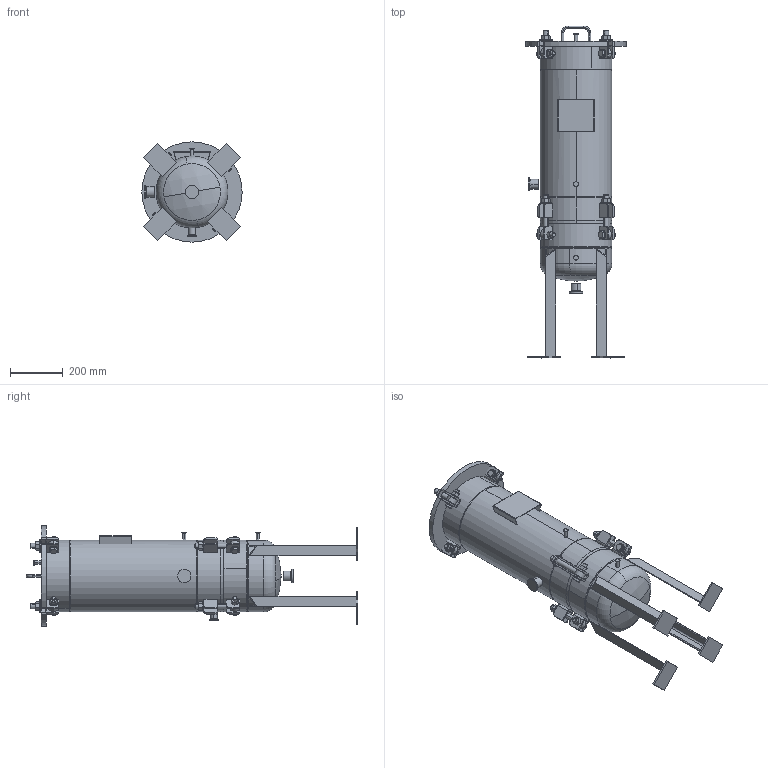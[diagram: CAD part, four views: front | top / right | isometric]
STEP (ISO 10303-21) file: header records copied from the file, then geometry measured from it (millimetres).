
FILE_DESCRIPTION (( 'STEP AP203' ), '1' );
FILE_NAME ('001001-00322.step', '2025-12-09T19:06:29', ( '' ), ( '' ), 'SwSTEP 2.0', 'SolidWorks 2023', '' );
FILE_SCHEMA (( 'CONFIG_CONTROL_DESIGN' ));
Length unit declared in the file: inch
Products named in the file (1): 001001-00322
Bounding box: 381 x 1261.99 x 381 mm (x, y, z)
Volume: 55133674.2 mm3; surface area: 2442111.9 mm2
Topology: 79 solids, 79 shells, 1176 faces, 2528 edges, 1537 vertices
Faces by surface type: plane 559, cylinder 315, cone 292, bspline 6, torus 2, sphere 2
Entity records: 34696 total; most frequent: CARTESIAN_POINT 9679, DIRECTION 5244, ORIENTED_EDGE 5056, EDGE_CURVE 2528, AXIS2_PLACEMENT_3D 2091, VERTEX_POINT 1537, EDGE_LOOP 1205, FACE_OUTER_BOUND 1176
